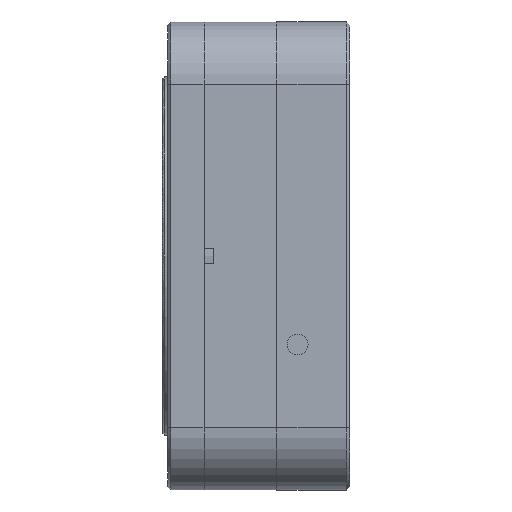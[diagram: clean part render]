
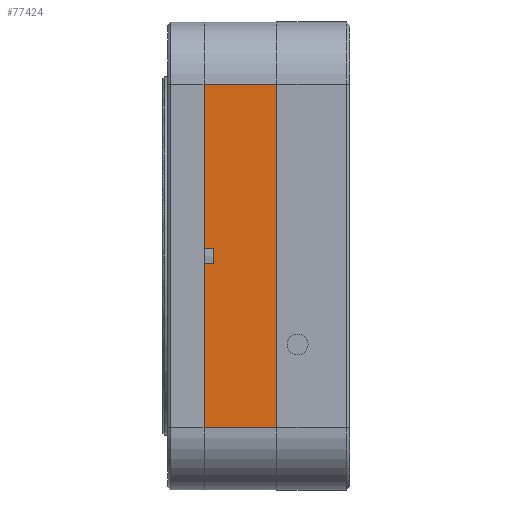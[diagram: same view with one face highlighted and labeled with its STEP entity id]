
A CAD part, left-side view. The second image highlights one B-rep face of the part: STEP entity #77424.
In plain terms, the highlighted planar face has unit normal (-1, 0, 0).
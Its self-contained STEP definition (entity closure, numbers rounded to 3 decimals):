
#1962 = EDGE_CURVE ( 'NONE', #9944, #76739, #88695, .T. ) ;
#2052 = CARTESIAN_POINT ( 'NONE',  ( -22.5, 7.5, -16.5 ) ) ;
#2437 = ORIENTED_EDGE ( 'NONE', *, *, #69480, .T. ) ;
#2794 = DIRECTION ( 'NONE',  ( 0., 1., 0. ) ) ;
#2944 = ORIENTED_EDGE ( 'NONE', *, *, #72961, .T. ) ;
#4089 = DIRECTION ( 'NONE',  ( 0., 0., 1. ) ) ;
#4337 = VECTOR ( 'NONE', #2794, 1000. ) ;
#5235 = VERTEX_POINT ( 'NONE', #64051 ) ;
#6542 = ORIENTED_EDGE ( 'NONE', *, *, #71294, .T. ) ;
#6943 = DIRECTION ( 'NONE',  ( 1., 0., 0. ) ) ;
#8763 = DIRECTION ( 'NONE',  ( 0., 1., 0. ) ) ;
#8800 = VECTOR ( 'NONE', #8763, 1000. ) ;
#9324 = CARTESIAN_POINT ( 'NONE',  ( -22.5, 7., 16.5 ) ) ;
#9481 = LINE ( 'NONE', #79763, #48055 ) ;
#9944 = VERTEX_POINT ( 'NONE', #39510 ) ;
#11713 = EDGE_LOOP ( 'NONE', ( #62052, #84073, #15137, #2437, #56435, #2944, #56842, #6542 ) ) ;
#12886 = CARTESIAN_POINT ( 'NONE',  ( -22.5, 7., -16.5 ) ) ;
#13941 = PLANE ( 'NONE',  #22088 ) ;
#14741 = VECTOR ( 'NONE', #23451, 1000. ) ;
#15137 = ORIENTED_EDGE ( 'NONE', *, *, #83225, .F. ) ;
#16519 = VERTEX_POINT ( 'NONE', #24122 ) ;
#22088 = AXIS2_PLACEMENT_3D ( 'NONE', #50370, #6943, #57640 ) ;
#23451 = DIRECTION ( 'NONE',  ( 0., 0., 1. ) ) ;
#24122 = CARTESIAN_POINT ( 'NONE',  ( -22.5, 7., 0.75 ) ) ;
#26233 = CARTESIAN_POINT ( 'NONE',  ( -22.5, 6.1, -0.75 ) ) ;
#30104 = LINE ( 'NONE', #84297, #68645 ) ;
#30765 = CARTESIAN_POINT ( 'NONE',  ( -22.5, 7., -22.5 ) ) ;
#31231 = VERTEX_POINT ( 'NONE', #9324 ) ;
#32495 = DIRECTION ( 'NONE',  ( 0., 0., 1. ) ) ;
#37213 = FACE_OUTER_BOUND ( 'NONE', #11713, .T. ) ;
#39510 = CARTESIAN_POINT ( 'NONE',  ( -22.5, 0., -16.5 ) ) ;
#40983 = CARTESIAN_POINT ( 'NONE',  ( -22.5, 6.1, 0.75 ) ) ;
#41028 = EDGE_CURVE ( 'NONE', #42122, #5235, #30104, .T. ) ;
#42030 = VERTEX_POINT ( 'NONE', #26233 ) ;
#42122 = VERTEX_POINT ( 'NONE', #12886 ) ;
#45910 = CARTESIAN_POINT ( 'NONE',  ( -22.5, 7.5, 16.5 ) ) ;
#48055 = VECTOR ( 'NONE', #85479, 1000. ) ;
#50370 = CARTESIAN_POINT ( 'NONE',  ( -22.5, 7.5, 22.5 ) ) ;
#54218 = VECTOR ( 'NONE', #32495, 1000. ) ;
#56435 = ORIENTED_EDGE ( 'NONE', *, *, #60183, .F. ) ;
#56480 = CARTESIAN_POINT ( 'NONE',  ( -22.5, 0., 16.5 ) ) ;
#56842 = ORIENTED_EDGE ( 'NONE', *, *, #41028, .F. ) ;
#57640 = DIRECTION ( 'NONE',  ( 0., 0., -1. ) ) ;
#60183 = EDGE_CURVE ( 'NONE', #42030, #87091, #92836, .T. ) ;
#62052 = ORIENTED_EDGE ( 'NONE', *, *, #1962, .T. ) ;
#63265 = EDGE_CURVE ( 'NONE', #76739, #31231, #79219, .T. ) ;
#64051 = CARTESIAN_POINT ( 'NONE',  ( -22.5, 7., -0.75 ) ) ;
#66756 = CARTESIAN_POINT ( 'NONE',  ( -22.5, 7.5, -0.75 ) ) ;
#67319 = DIRECTION ( 'NONE',  ( 0., -1., 0. ) ) ;
#68645 = VECTOR ( 'NONE', #4089, 1000. ) ;
#69341 = VECTOR ( 'NONE', #90167, 1000. ) ;
#69480 = EDGE_CURVE ( 'NONE', #16519, #87091, #9481, .T. ) ;
#71294 = EDGE_CURVE ( 'NONE', #42122, #9944, #72411, .T. ) ;
#72411 = LINE ( 'NONE', #2052, #89538 ) ;
#72961 = EDGE_CURVE ( 'NONE', #42030, #5235, #85966, .T. ) ;
#75876 = CARTESIAN_POINT ( 'NONE',  ( -22.5, 6.1, 22.5 ) ) ;
#76739 = VERTEX_POINT ( 'NONE', #56480 ) ;
#77424 = ADVANCED_FACE ( 'NONE', ( #37213 ), #13941, .F. ) ;
#79219 = LINE ( 'NONE', #45910, #4337 ) ;
#79763 = CARTESIAN_POINT ( 'NONE',  ( -22.5, 7.5, 0.75 ) ) ;
#82833 = CARTESIAN_POINT ( 'NONE',  ( -22.5, 0., 22.5 ) ) ;
#83225 = EDGE_CURVE ( 'NONE', #16519, #31231, #89676, .T. ) ;
#84073 = ORIENTED_EDGE ( 'NONE', *, *, #63265, .T. ) ;
#84297 = CARTESIAN_POINT ( 'NONE',  ( -22.5, 7., -22.5 ) ) ;
#85479 = DIRECTION ( 'NONE',  ( 0., -1., 0. ) ) ;
#85966 = LINE ( 'NONE', #66756, #8800 ) ;
#87091 = VERTEX_POINT ( 'NONE', #40983 ) ;
#88695 = LINE ( 'NONE', #82833, #69341 ) ;
#89538 = VECTOR ( 'NONE', #67319, 1000. ) ;
#89676 = LINE ( 'NONE', #30765, #14741 ) ;
#90167 = DIRECTION ( 'NONE',  ( 0., 0., 1. ) ) ;
#92836 = LINE ( 'NONE', #75876, #54218 ) ;
